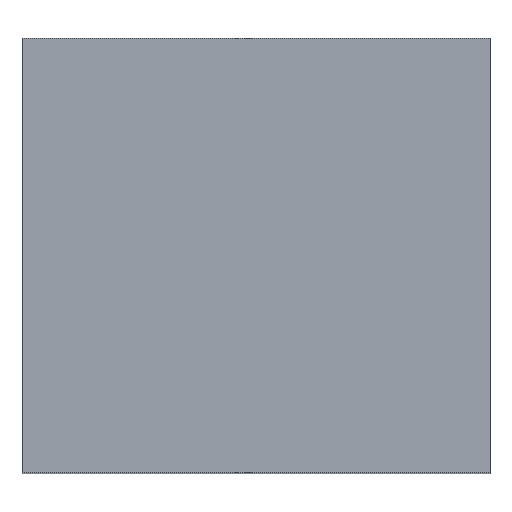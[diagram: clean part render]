
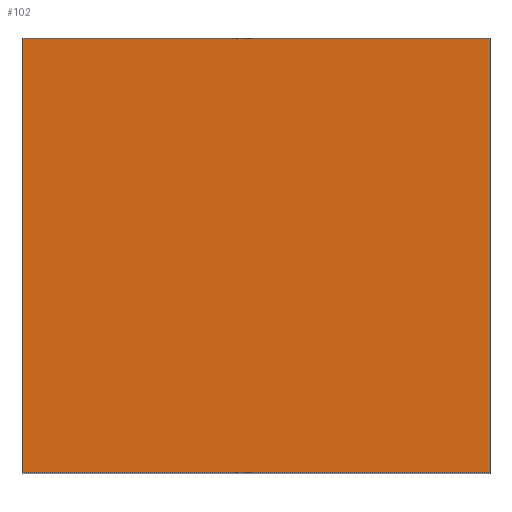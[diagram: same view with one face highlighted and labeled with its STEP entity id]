
A CAD part, top view. The second image highlights one B-rep face of the part: STEP entity #102.
In plain terms, the highlighted planar face has unit normal (0, 0, 1).
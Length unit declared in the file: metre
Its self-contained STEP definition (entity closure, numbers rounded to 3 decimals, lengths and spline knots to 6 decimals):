
#28=ORIENTED_EDGE('',*,*,#47,.T.);
#29=ORIENTED_EDGE('',*,*,#44,.T.);
#30=ORIENTED_EDGE('',*,*,#41,.T.);
#31=ORIENTED_EDGE('',*,*,#38,.T.);
#38=EDGE_CURVE('',#51,#50,#58,.T.);
#41=EDGE_CURVE('',#53,#51,#61,.F.);
#44=EDGE_CURVE('',#55,#53,#64,.F.);
#47=EDGE_CURVE('',#50,#55,#67,.T.);
#50=VERTEX_POINT('',#147);
#51=VERTEX_POINT('',#149);
#53=VERTEX_POINT('',#155);
#55=VERTEX_POINT('',#161);
#58=LINE('',#148,#70);
#61=LINE('',#154,#73);
#64=LINE('',#160,#76);
#67=LINE('',#165,#79);
#70=VECTOR('',#121,1.);
#73=VECTOR('',#126,1.);
#76=VECTOR('',#131,1.);
#79=VECTOR('',#136,1.);
#84=EDGE_LOOP('',(#28,#29,#30,#31));
#90=FACE_BOUND('',#84,.T.);
#96=PLANE('',#113);
#102=ADVANCED_FACE('',(#90),#96,.T.);
#113=AXIS2_PLACEMENT_3D('',#166,#137,#138);
#121=DIRECTION('',(1.,0.,0.));
#126=DIRECTION('',(0.,1.,0.));
#131=DIRECTION('',(1.,0.,0.));
#136=DIRECTION('',(0.,1.,0.));
#137=DIRECTION('',(0.,0.,1.));
#138=DIRECTION('',(1.,0.,0.));
#147=CARTESIAN_POINT('',(0.020448,0.00085,-0.0274));
#148=CARTESIAN_POINT('',(0.019448,0.00085,-0.0274));
#149=CARTESIAN_POINT('',(0.019048,0.00085,-0.0274));
#154=CARTESIAN_POINT('',(0.019048,0.0015,-0.0274));
#155=CARTESIAN_POINT('',(0.019048,0.00215,-0.0274));
#160=CARTESIAN_POINT('',(0.019448,0.00215,-0.0274));
#161=CARTESIAN_POINT('',(0.020448,0.00215,-0.0274));
#165=CARTESIAN_POINT('',(0.020448,0.0015,-0.0274));
#166=CARTESIAN_POINT('',(0.019448,0.0015,-0.0274));
